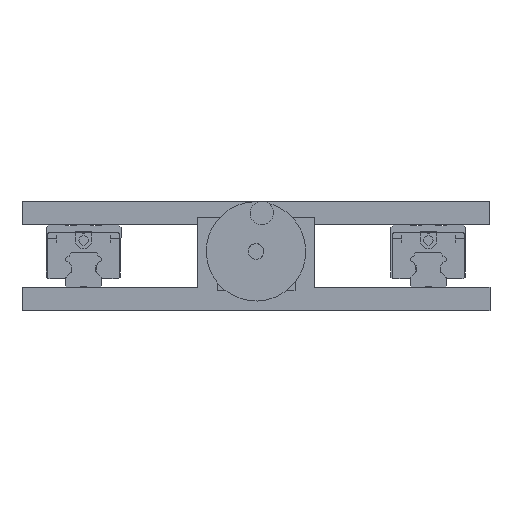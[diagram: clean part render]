
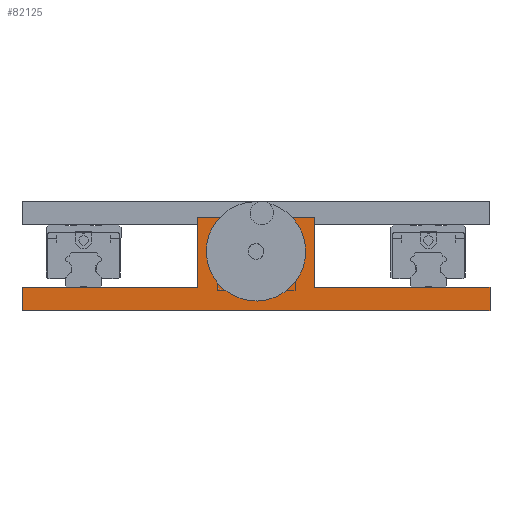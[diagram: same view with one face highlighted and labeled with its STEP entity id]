
A CAD part, front view. The second image highlights one B-rep face of the part: STEP entity #82125.
In plain terms, the highlighted planar face has unit normal (0, -1, 0).
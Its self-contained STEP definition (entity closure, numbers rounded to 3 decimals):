
#541 = DIRECTION ( 'NONE',  ( 0., 0., -1. ) ) ;
#946 = VECTOR ( 'NONE', #78112, 1000. ) ;
#1526 = DIRECTION ( 'NONE',  ( 0., 0., -1. ) ) ;
#2221 = VERTEX_POINT ( 'NONE', #52341 ) ;
#2525 = VECTOR ( 'NONE', #11158, 1000. ) ;
#2651 = DIRECTION ( 'NONE',  ( 0., 0., 1. ) ) ;
#4199 = VERTEX_POINT ( 'NONE', #79619 ) ;
#5063 = CARTESIAN_POINT ( 'NONE',  ( -150., -1066.5, 15. ) ) ;
#6358 = AXIS2_PLACEMENT_3D ( 'NONE', #20730, #45907, #71442 ) ;
#11158 = DIRECTION ( 'NONE',  ( 1., 0., 0. ) ) ;
#11807 = ORIENTED_EDGE ( 'NONE', *, *, #23849, .F. ) ;
#13080 = VECTOR ( 'NONE', #78153, 1000. ) ;
#13091 = FACE_OUTER_BOUND ( 'NONE', #70463, .T. ) ;
#13582 = CARTESIAN_POINT ( 'NONE',  ( 150., -1066.5, 15. ) ) ;
#14613 = CARTESIAN_POINT ( 'NONE',  ( 0., -1066.5, 43. ) ) ;
#16726 = EDGE_CURVE ( 'NONE', #80852, #4199, #54989, .T. ) ;
#19482 = LINE ( 'NONE', #5063, #49799 ) ;
#20019 = AXIS2_PLACEMENT_3D ( 'NONE', #64745, #65607, #45760 ) ;
#20353 = ORIENTED_EDGE ( 'NONE', *, *, #55982, .F. ) ;
#20730 = CARTESIAN_POINT ( 'NONE',  ( 0., -1066.5, 38. ) ) ;
#22406 = DIRECTION ( 'NONE',  ( 0., 1., 0. ) ) ;
#23091 = ORIENTED_EDGE ( 'NONE', *, *, #71128, .T. ) ;
#23149 = DIRECTION ( 'NONE',  ( 1., 0., 0. ) ) ;
#23172 = DIRECTION ( 'NONE',  ( 0., 0., -1. ) ) ;
#23849 = EDGE_CURVE ( 'NONE', #81562, #2221, #60127, .T. ) ;
#24691 = ORIENTED_EDGE ( 'NONE', *, *, #83077, .F. ) ;
#24926 = VERTEX_POINT ( 'NONE', #82102 ) ;
#25213 = LINE ( 'NONE', #46180, #13080 ) ;
#25236 = AXIS2_PLACEMENT_3D ( 'NONE', #79515, #22406, #2651 ) ;
#25791 = CARTESIAN_POINT ( 'NONE',  ( 150., -1066.5, 0. ) ) ;
#26120 = LINE ( 'NONE', #65456, #42373 ) ;
#26323 = CARTESIAN_POINT ( 'NONE',  ( -150., -1066.5, 0. ) ) ;
#26576 = CARTESIAN_POINT ( 'NONE',  ( -37.5, -1066.5, 60. ) ) ;
#29014 = ORIENTED_EDGE ( 'NONE', *, *, #16726, .F. ) ;
#31291 = EDGE_CURVE ( 'NONE', #33952, #60255, #80781, .T. ) ;
#33093 = DIRECTION ( 'NONE',  ( 0., 0., -1. ) ) ;
#33952 = VERTEX_POINT ( 'NONE', #67831 ) ;
#34838 = PLANE ( 'NONE',  #25236 ) ;
#37060 = ORIENTED_EDGE ( 'NONE', *, *, #56080, .F. ) ;
#37711 = CARTESIAN_POINT ( 'NONE',  ( -150., -1066.5, 15. ) ) ;
#38416 = CIRCLE ( 'NONE', #6358, 5. ) ;
#38631 = CARTESIAN_POINT ( 'NONE',  ( 37.5, -1066.5, 60. ) ) ;
#40107 = VECTOR ( 'NONE', #33093, 1000. ) ;
#40947 = EDGE_LOOP ( 'NONE', ( #29014, #20353 ) ) ;
#42112 = LINE ( 'NONE', #38631, #78547 ) ;
#42244 = VECTOR ( 'NONE', #23172, 1000. ) ;
#42373 = VECTOR ( 'NONE', #1526, 1000. ) ;
#42488 = CARTESIAN_POINT ( 'NONE',  ( 37.5, -1066.5, 60. ) ) ;
#43035 = VERTEX_POINT ( 'NONE', #13582 ) ;
#45760 = DIRECTION ( 'NONE',  ( 0., 0., 1. ) ) ;
#45907 = DIRECTION ( 'NONE',  ( 0., -1., 0. ) ) ;
#46125 = ORIENTED_EDGE ( 'NONE', *, *, #58120, .T. ) ;
#46180 = CARTESIAN_POINT ( 'NONE',  ( -37.5, -1066.5, 60. ) ) ;
#49799 = VECTOR ( 'NONE', #23149, 1000. ) ;
#50501 = EDGE_CURVE ( 'NONE', #43035, #60255, #51302, .T. ) ;
#51302 = LINE ( 'NONE', #61901, #42244 ) ;
#51563 = VERTEX_POINT ( 'NONE', #42488 ) ;
#52341 = CARTESIAN_POINT ( 'NONE',  ( -37.5, -1066.5, 15. ) ) ;
#53325 = CARTESIAN_POINT ( 'NONE',  ( -150., -1066.5, 15. ) ) ;
#54532 = CARTESIAN_POINT ( 'NONE',  ( -37.5, -1066.5, 60. ) ) ;
#54989 = CIRCLE ( 'NONE', #20019, 5. ) ;
#55149 = VERTEX_POINT ( 'NONE', #54532 ) ;
#55982 = EDGE_CURVE ( 'NONE', #4199, #80852, #38416, .T. ) ;
#56080 = EDGE_CURVE ( 'NONE', #55149, #51563, #25213, .T. ) ;
#58120 = EDGE_CURVE ( 'NONE', #55149, #2221, #69593, .T. ) ;
#58846 = ORIENTED_EDGE ( 'NONE', *, *, #31291, .T. ) ;
#60127 = LINE ( 'NONE', #37711, #2525 ) ;
#60255 = VERTEX_POINT ( 'NONE', #25791 ) ;
#61901 = CARTESIAN_POINT ( 'NONE',  ( 150., -1066.5, 15. ) ) ;
#64745 = CARTESIAN_POINT ( 'NONE',  ( 0., -1066.5, 38. ) ) ;
#65456 = CARTESIAN_POINT ( 'NONE',  ( -150., -1066.5, 15. ) ) ;
#65607 = DIRECTION ( 'NONE',  ( 0., -1., 0. ) ) ;
#67831 = CARTESIAN_POINT ( 'NONE',  ( -150., -1066.5, 0. ) ) ;
#69593 = LINE ( 'NONE', #26576, #40107 ) ;
#70409 = ORIENTED_EDGE ( 'NONE', *, *, #81117, .F. ) ;
#70463 = EDGE_LOOP ( 'NONE', ( #58846, #80598, #70409, #24691, #37060, #46125, #11807, #23091 ) ) ;
#71128 = EDGE_CURVE ( 'NONE', #81562, #33952, #26120, .T. ) ;
#71442 = DIRECTION ( 'NONE',  ( 0., 0., 1. ) ) ;
#78112 = DIRECTION ( 'NONE',  ( 1., 0., 0. ) ) ;
#78153 = DIRECTION ( 'NONE',  ( 1., 0., 0. ) ) ;
#78547 = VECTOR ( 'NONE', #541, 1000. ) ;
#79515 = CARTESIAN_POINT ( 'NONE',  ( -150., -1066.5, 15. ) ) ;
#79619 = CARTESIAN_POINT ( 'NONE',  ( 0., -1066.5, 33. ) ) ;
#80598 = ORIENTED_EDGE ( 'NONE', *, *, #50501, .F. ) ;
#80781 = LINE ( 'NONE', #26323, #946 ) ;
#80852 = VERTEX_POINT ( 'NONE', #14613 ) ;
#80876 = FACE_BOUND ( 'NONE', #40947, .T. ) ;
#81117 = EDGE_CURVE ( 'NONE', #24926, #43035, #19482, .T. ) ;
#81562 = VERTEX_POINT ( 'NONE', #53325 ) ;
#82102 = CARTESIAN_POINT ( 'NONE',  ( 37.5, -1066.5, 15. ) ) ;
#82125 = ADVANCED_FACE ( 'NONE', ( #80876, #13091 ), #34838, .F. ) ;
#83077 = EDGE_CURVE ( 'NONE', #51563, #24926, #42112, .T. ) ;
